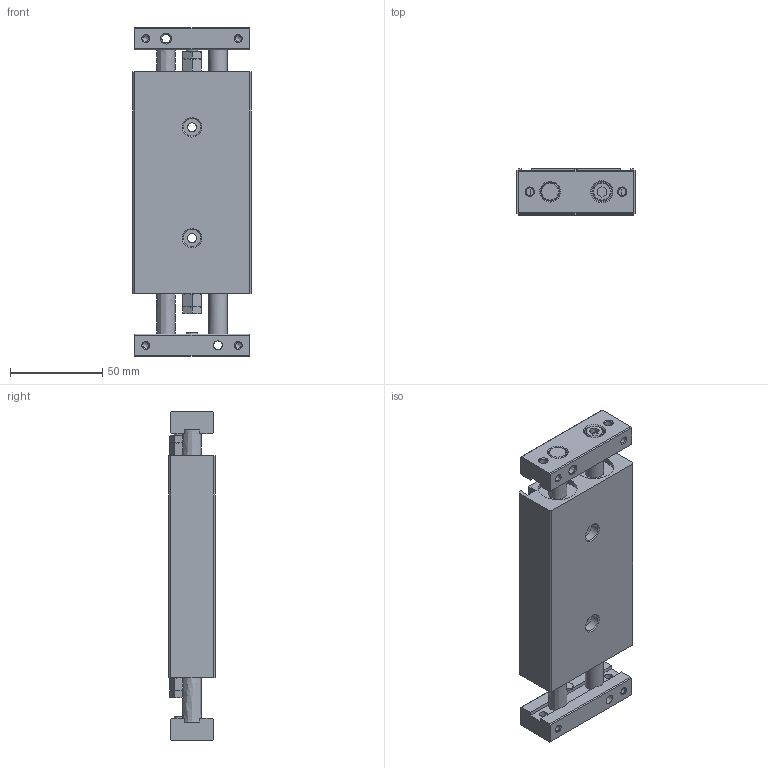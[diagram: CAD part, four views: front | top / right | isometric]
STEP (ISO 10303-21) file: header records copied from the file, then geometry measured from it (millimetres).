
FILE_DESCRIPTION((''),'2;1');
FILE_NAME('I:\3D電子目錄\氣缸\STX\STX\STX20\STX20x10.stp','2007-10-02T08:29:06',('Administrator'),(''),'Autodesk Inventor 11','Autodesk Inventor 11','');
FILE_SCHEMA(('AUTOMOTIVE_DESIGN { 1 0 10303 214 1 1 1 1 }'));
Length unit declared in the file: millimetre
Products named in the file (1): STX20
Bounding box: 64 x 25 x 178 mm (x, y, z)
Volume: 215200.9 mm3; surface area: 45816.3 mm2
Topology: 1 solids, 1 shells, 277 faces, 685 edges, 425 vertices
Faces by surface type: plane 133, cone 75, bspline 42, cylinder 23, torus 4
Full cylindrical faces by diameter (mm): 3.242 x4, 6 x2, 9.5 x2, 10 x6, 10.2 x2, 11 x1, 11.2 x1, 21 x2, 22.2 x2
Entity records: 7915 total; most frequent: CARTESIAN_POINT 2261, DIRECTION 1108, ORIENTED_EDGE 1106, EDGE_CURVE 553, AXIS2_PLACEMENT_3D 424, EDGE_LOOP 408, VERTEX_POINT 381, FACE_OUTER_BOUND 276
